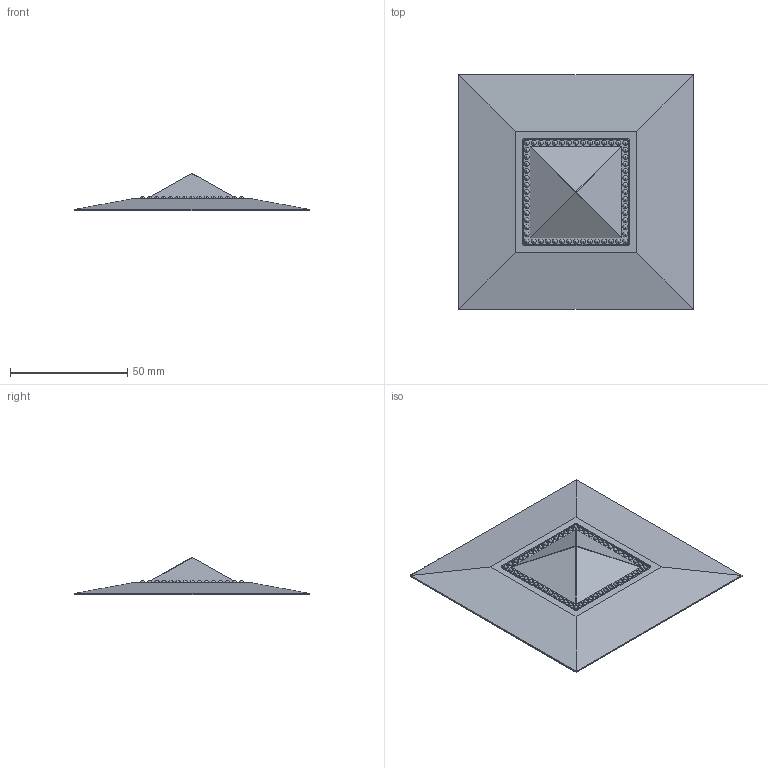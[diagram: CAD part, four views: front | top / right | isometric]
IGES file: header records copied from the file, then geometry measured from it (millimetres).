
Start section: C
Global section: file name: 8031-1.igs; native system: By Siemens PLM Incorporated; preprocessor: XPlus GENERIC/IGES 16.0.42; author: Author; organization: Title; date: 20231128.134240; units: millimetre
Bounding box: 100 x 100 x 15.93 mm (x, y, z)
Surface area: 27089.1 mm2 (no closed solid volume)
Topology: 0 solids, 0 shells, 116 faces, 675 edges, 618 vertices
Faces by surface type: bspline 116
